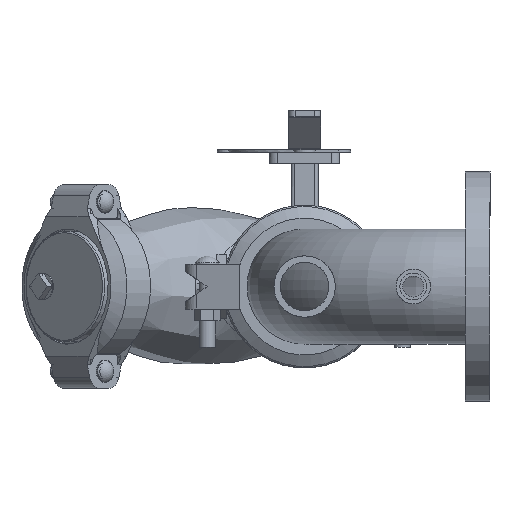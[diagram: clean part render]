
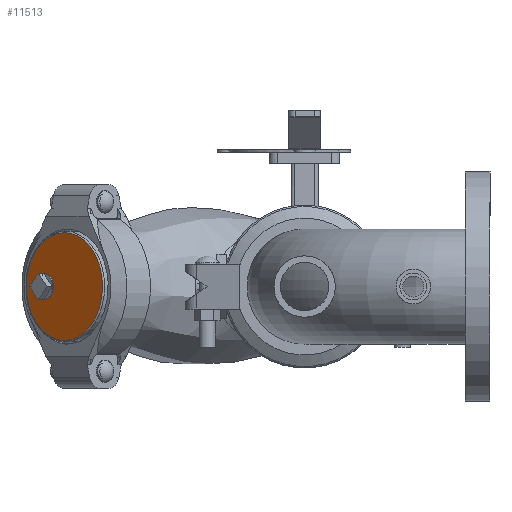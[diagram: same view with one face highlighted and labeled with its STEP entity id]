
A CAD part, front view. The second image highlights one B-rep face of the part: STEP entity #11513.
In plain terms, the highlighted planar face has unit normal (-0.707, -0.707, 0) as drawn and (1, 0, 0) by its records, which use the part's own axes.
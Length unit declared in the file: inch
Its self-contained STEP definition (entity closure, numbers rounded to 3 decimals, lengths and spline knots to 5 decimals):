
#2265=FACE_BOUND('',#3296,.T.);
#2624=FACE_OUTER_BOUND('',#3295,.T.);
#3295=EDGE_LOOP('',(#8446,#8447));
#3296=EDGE_LOOP('',(#8448));
#3979=CIRCLE('',#12682,0.5);
#3987=CIRCLE('',#12693,2.107);
#3988=CIRCLE('',#12694,2.107);
#4827=VERTEX_POINT('',#21764);
#4835=VERTEX_POINT('',#21785);
#4836=VERTEX_POINT('',#21786);
#6133=EDGE_CURVE('',#4827,#4827,#3979,.T.);
#6142=EDGE_CURVE('',#4835,#4836,#3987,.T.);
#6143=EDGE_CURVE('',#4836,#4835,#3988,.T.);
#8446=ORIENTED_EDGE('',*,*,#6142,.T.);
#8447=ORIENTED_EDGE('',*,*,#6143,.T.);
#8448=ORIENTED_EDGE('',*,*,#6133,.T.);
#10411=PLANE('',#12696);
#11513=ADVANCED_FACE('',(#2624,#2265),#10411,.T.);
#12682=AXIS2_PLACEMENT_3D('',#21766,#14880,#14881);
#12693=AXIS2_PLACEMENT_3D('',#21787,#14903,#14904);
#12694=AXIS2_PLACEMENT_3D('',#21788,#14905,#14906);
#12696=AXIS2_PLACEMENT_3D('',#21790,#14909,#14910);
#14880=DIRECTION('center_axis',(-1.,0.,0.));
#14881=DIRECTION('ref_axis',(0.,0.,1.));
#14903=DIRECTION('center_axis',(1.,0.,0.));
#14904=DIRECTION('ref_axis',(0.,0.,-1.));
#14905=DIRECTION('center_axis',(1.,0.,0.));
#14906=DIRECTION('ref_axis',(0.,0.,-1.));
#14909=DIRECTION('center_axis',(1.,0.,0.));
#14910=DIRECTION('ref_axis',(0.,0.,-1.));
#21764=CARTESIAN_POINT('',(1.13,1.1,-0.5));
#21766=CARTESIAN_POINT('Origin',(1.13,1.1,0.));
#21785=CARTESIAN_POINT('',(1.13,2.107,0.));
#21786=CARTESIAN_POINT('',(1.13,0.,2.107));
#21787=CARTESIAN_POINT('Origin',(1.13,0.,0.));
#21788=CARTESIAN_POINT('Origin',(1.13,0.,0.));
#21790=CARTESIAN_POINT('Origin',(1.13,0.,0.));
